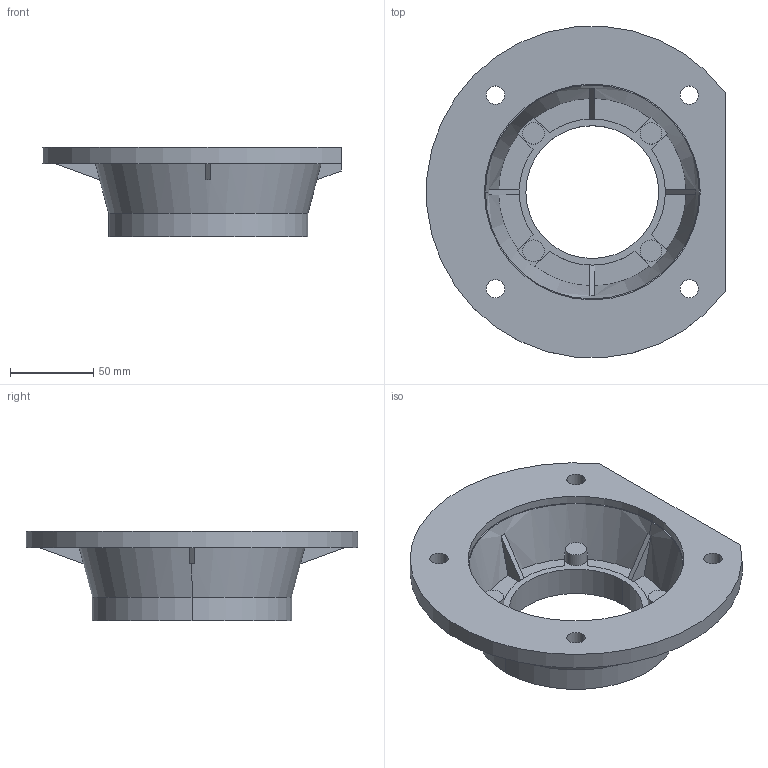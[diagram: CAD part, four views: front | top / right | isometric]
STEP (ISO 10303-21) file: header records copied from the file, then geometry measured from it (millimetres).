
FILE_DESCRIPTION(/* description */ (''),/* implementation_level */ '2;1');
FILE_NAME(/* name */ '2_FLANGIA (CAMPANA) LATERALE FD NMRV-P063',/* time_stamp */ '2025-10-09T14:52:50+02:00',/* author */ (''),/* organization */ (''),/* preprocessor_version */ 'ST-DEVELOPER v19.2',/* originating_system */ 'Rhino 8.23',/* authorisation */ '');
FILE_SCHEMA (('CONFIG_CONTROL_DESIGN'));
Length unit declared in the file: millimetre
Products named in the file (2): Document; FU 63FD-p
Bounding box: 179.63 x 199.57 x 54 mm (x, y, z)
Volume: 315340.8 mm3; surface area: 92535.1 mm2
Topology: 1 solids, 1 shells, 81 faces, 213 edges, 140 vertices
Faces by surface type: plane 46, cylinder 27, bspline 8
Entity records: 3557 total; most frequent: CARTESIAN_POINT 904, ORIENTED_EDGE 426, DIRECTION 251, EDGE_CURVE 213, AXIS2_PLACEMENT_3D 162, VERTEX_POINT 140, B_SPLINE_CURVE_WITH_KNOTS 122, EDGE_LOOP 97
